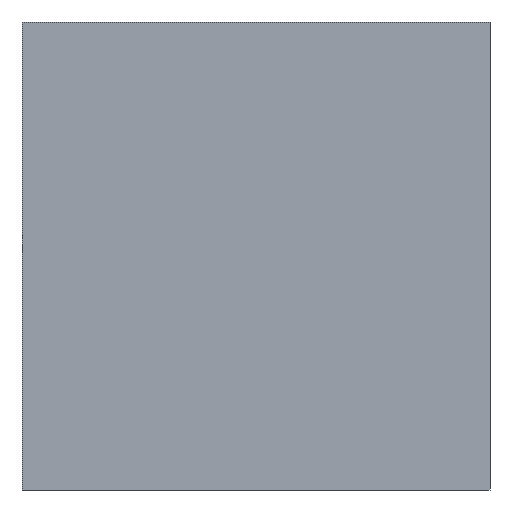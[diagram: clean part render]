
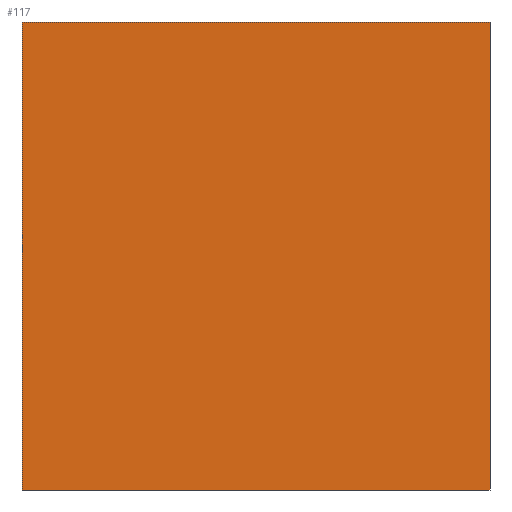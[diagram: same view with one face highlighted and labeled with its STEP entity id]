
A CAD part, front view. The second image highlights one B-rep face of the part: STEP entity #117.
In plain terms, the highlighted planar face has unit normal (0, -1, 0).
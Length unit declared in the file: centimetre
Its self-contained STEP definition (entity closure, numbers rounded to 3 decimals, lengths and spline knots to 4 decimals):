
#21 = DIRECTION ( 'NONE',  ( 0., 0., 1. ) ) ;
#22 = VECTOR ( 'NONE', #145, 100. ) ;
#62 = CARTESIAN_POINT ( 'NONE',  ( 1000., 0., 1000. ) ) ;
#84 = CARTESIAN_POINT ( 'NONE',  ( 0., 0., 0. ) ) ;
#117 = ADVANCED_FACE ( 'NONE', ( #495 ), #124, .F. ) ;
#124 = PLANE ( 'NONE',  #514 ) ;
#145 = DIRECTION ( 'NONE',  ( 0., 0., -1. ) ) ;
#171 = VERTEX_POINT ( 'NONE', #235 ) ;
#197 = LINE ( 'NONE', #246, #565 ) ;
#201 = LINE ( 'NONE', #84, #522 ) ;
#202 = VERTEX_POINT ( 'NONE', #539 ) ;
#207 = DIRECTION ( 'NONE',  ( 0., 0., -1. ) ) ;
#218 = ORIENTED_EDGE ( 'NONE', *, *, #287, .T. ) ;
#235 = CARTESIAN_POINT ( 'NONE',  ( 0., 0., 1000. ) ) ;
#246 = CARTESIAN_POINT ( 'NONE',  ( 0., 0., 1000. ) ) ;
#269 = ORIENTED_EDGE ( 'NONE', *, *, #310, .F. ) ;
#271 = EDGE_LOOP ( 'NONE', ( #431, #269, #338, #218 ) ) ;
#275 = LINE ( 'NONE', #416, #510 ) ;
#287 = EDGE_CURVE ( 'NONE', #171, #202, #197, .T. ) ;
#293 = CARTESIAN_POINT ( 'NONE',  ( 0., 0., 1000. ) ) ;
#310 = EDGE_CURVE ( 'NONE', #648, #437, #509, .T. ) ;
#338 = ORIENTED_EDGE ( 'NONE', *, *, #450, .F. ) ;
#361 = EDGE_CURVE ( 'NONE', #202, #437, #201, .T. ) ;
#397 = DIRECTION ( 'NONE',  ( 0., 1., 0. ) ) ;
#414 = CARTESIAN_POINT ( 'NONE',  ( 1000., 0., 1000. ) ) ;
#415 = DIRECTION ( 'NONE',  ( 1., 0., 0. ) ) ;
#416 = CARTESIAN_POINT ( 'NONE',  ( 0., 0., 1000. ) ) ;
#431 = ORIENTED_EDGE ( 'NONE', *, *, #361, .T. ) ;
#437 = VERTEX_POINT ( 'NONE', #561 ) ;
#450 = EDGE_CURVE ( 'NONE', #171, #648, #275, .T. ) ;
#495 = FACE_OUTER_BOUND ( 'NONE', #271, .T. ) ;
#500 = DIRECTION ( 'NONE',  ( 1., 0., 0. ) ) ;
#509 = LINE ( 'NONE', #414, #22 ) ;
#510 = VECTOR ( 'NONE', #415, 100. ) ;
#514 = AXIS2_PLACEMENT_3D ( 'NONE', #293, #397, #21 ) ;
#522 = VECTOR ( 'NONE', #500, 100. ) ;
#539 = CARTESIAN_POINT ( 'NONE',  ( 0., 0., 0. ) ) ;
#561 = CARTESIAN_POINT ( 'NONE',  ( 1000., 0., 0. ) ) ;
#565 = VECTOR ( 'NONE', #207, 100. ) ;
#648 = VERTEX_POINT ( 'NONE', #62 ) ;
